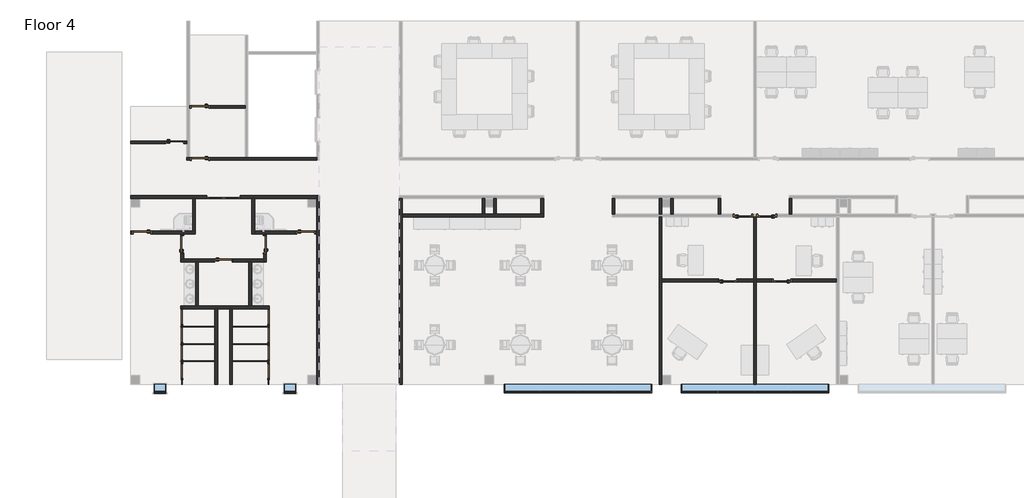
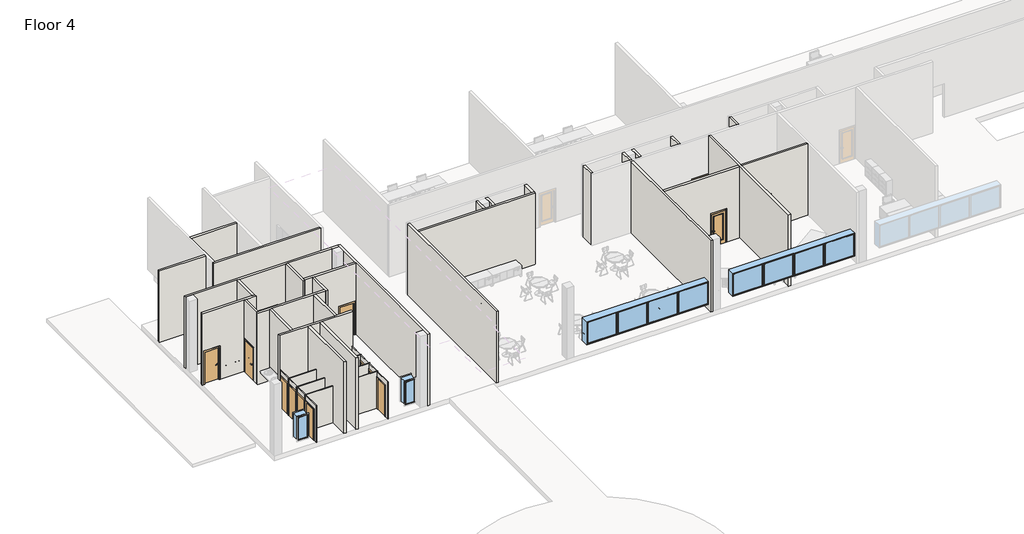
# One storey, part 1 of 6: 45 walls, 21 doors, 4 windows.
"""IFC4 building model written with IfcOpenShell, lengths in millimetres."""

from ifc_helpers import new_model, si_unit, frame, origin, place, context, project, spatial, polyline, outline, extrude, faceted_brep, transform, mapped, element, save
from components import door_f1125a27, door_36f17018, door_a46f4f49, door_4cfbdd5f, door_4a7c4c71, door_b03708da, door_cef5613e, window_casement_multi_sash_horizontal_25_x_5ft_0e5d08e3, window_69ce9bab

model = new_model("IFC4")

# Units and contexts
model_context = context("Model", 3, world=origin())
ifc_project = project(units=[si_unit("LENGTHUNIT", "METRE", prefix="MILLI")], contexts=[model_context])

# Site, building, storey
site = spatial("IfcSite", under=ifc_project)
building = spatial("IfcBuilding", under=site)
storey = spatial("IfcBuildingStorey", under=building, Name="Floor 4", Elevation=14935.2)

# Doors
placement = place(None, origin())
door_shape = door_f1125a27(model_context)
element("IfcDoor", 1, ObjectType="Dbl Acting Dbl Glass 1 : 68\" x 84\"", at=placement, inside=storey, context=model_context, shape_type="MappedRepresentation", body=[
    mapped(door_shape, transform((1836.7692024, 48316.361889, 14935.2), x_axis=(-1.0, 0.0, 0.0), y_axis=(0.0, -1.0, 0.0), z_axis=(0.0, 0.0, 1.0))),
])
door_2_shape = door_36f17018(model_context)
element("IfcDoor", 2, ObjectType="Door-Passage-Single-Flush : 36\" x 84\"", at=placement, inside=storey, context=model_context, shape_type="MappedRepresentation", body=[
    mapped(door_2_shape, transform((617.5692024, 50253.111889, 14935.2), x_axis=(-1.0, 0.0, 0.0), y_axis=(0.0, -1.0, 0.0), z_axis=(0.0, 0.0, 1.0))),
])
element("IfcDoor", 3, ObjectType="Door-Passage-Single-Flush : 36\" x 84\"", at=placement, inside=storey, context=model_context, shape_type="MappedRepresentation", body=[
    mapped(door_2_shape, transform((617.5692024, 52945.511889, 14935.2), x_axis=(-1.0, 0.0, 0.0), y_axis=(0.0, -1.0, 0.0), z_axis=(0.0, 0.0, 1.0))),
])
element("IfcDoor", 4, ObjectType="Door-Passage-Single-Flush : 36\" x 84\"", at=placement, inside=storey, context=model_context, shape_type="MappedRepresentation", body=[
    mapped(door_2_shape, transform((3964.0192024, 45858.911889, 14935.2), x_axis=(0.0, 1.0, 0.0), y_axis=(-1.0, 0.0, 0.0), z_axis=(0.0, 0.0, 1.0))),
])
element("IfcDoor", 5, ObjectType="Door-Passage-Single-Flush : 36\" x 84\"", at=placement, inside=storey, context=model_context, shape_type="MappedRepresentation", body=[
    mapped(door_2_shape, transform((-2380.0102165, 46455.811889, 14935.2), x_axis=(-1.0, 0.0, 0.0), y_axis=(0.0, -1.0, 0.0), z_axis=(0.0, 0.0, 1.0))),
])
door_3_shape = door_a46f4f49(model_context)
element("IfcDoor", 6, ObjectType="Door-Passage-Single-Flush : 36\" x 84\"", at=placement, inside=storey, context=model_context, shape_type="MappedRepresentation", body=[
    mapped(door_3_shape, transform((-684.1807976, 51116.711889, 14935.2), x_axis=(1.0, 0.0, 0.0), y_axis=(0.0, 1.0, 0.0), z_axis=(0.0, 0.0, 1.0))),
])
element("IfcDoor", 7, ObjectType="Door-Passage-Single-Flush : 36\" x 84\"", at=placement, inside=storey, context=model_context, shape_type="MappedRepresentation", body=[
    mapped(door_3_shape, transform((-290.4807976, 45852.561889, 14935.2), x_axis=(0.0, 1.0, 0.0), y_axis=(-1.0, 0.0, 0.0), z_axis=(0.0, 0.0, 1.0))),
])
element("IfcDoor", 8, ObjectType="Door-Passage-Single-Flush : 36\" x 84\"", at=placement, inside=storey, context=model_context, shape_type="MappedRepresentation", body=[
    mapped(door_3_shape, transform((6072.2192024, 46455.811889, 14935.2), x_axis=(1.0, 0.0, 0.0), y_axis=(0.0, 1.0, 0.0), z_axis=(0.0, 0.0, 1.0))),
])
element("IfcDoor", 9, ObjectType="Door-Passage-Single-Flush : 36\" x 84\"", at=placement, inside=storey, context=model_context, shape_type="MappedRepresentation", body=[
    mapped(door_3_shape, transform((1836.7692024, 45008.011889, 14935.2), x_axis=(1.0, 0.0, 0.0), y_axis=(0.0, 1.0, 0.0), z_axis=(0.0, 0.0, 1.0))),
])
door_4_shape = door_4cfbdd5f(model_context)
element("IfcDoor", 10, ObjectType="Door-Passage-Single-Full_Lite : 36\" x 84\"", at=placement, inside=storey, context=model_context, shape_type="MappedRepresentation", body=[
    mapped(door_4_shape, transform((27871.7692024, 43985.661889, 14935.2), x_axis=(1.0, 0.0, 0.0), y_axis=(0.0, 1.0, 0.0), z_axis=(0.0, 0.0, 1.0))),
])
element("IfcDoor", 11, ObjectType="Door-Passage-Single-Full_Lite : 36\" x 84\"", at=placement, inside=storey, context=model_context, shape_type="MappedRepresentation", body=[
    mapped(door_4_shape, transform((28659.1692024, 47338.461889, 14935.2), x_axis=(1.0, 0.0, 0.0), y_axis=(0.0, 1.0, 0.0), z_axis=(0.0, 0.0, 1.0))),
])
door_5_shape = door_4a7c4c71(model_context)
element("IfcDoor", 12, ObjectType="Door-Passage-Single-Full_Lite : 36\" x 84\"", at=placement, inside=storey, context=model_context, shape_type="MappedRepresentation", body=[
    mapped(door_5_shape, transform((30665.7692024, 43985.661889, 14935.2), x_axis=(-1.0, 0.0, 0.0), y_axis=(0.0, -1.0, 0.0), z_axis=(0.0, 0.0, 1.0))),
])
element("IfcDoor", 13, ObjectType="Door-Passage-Single-Full_Lite : 36\" x 84\"", at=placement, inside=storey, context=model_context, shape_type="MappedRepresentation", body=[
    mapped(door_5_shape, transform((29878.3692024, 47338.461889, 14935.2), x_axis=(-1.0, 0.0, 0.0), y_axis=(0.0, -1.0, 0.0), z_axis=(0.0, 0.0, 1.0))),
])
door_6_shape = door_b03708da(model_context)
element("IfcDoor", 14, ObjectType="Single-Flush : 30\" x 80\"", at=placement, inside=storey, context=model_context, shape_type="MappedRepresentation", body=[
    mapped(door_6_shape, transform((-322.2307976, 42096.536889, 14935.2), x_axis=(0.0, -1.0, 0.0), y_axis=(1.0, 0.0, 0.0), z_axis=(0.0, 0.0, 1.0))),
])
element("IfcDoor", 15, ObjectType="Single-Flush : 30\" x 80\"", at=placement, inside=storey, context=model_context, shape_type="MappedRepresentation", body=[
    mapped(door_6_shape, transform((-322.2307976, 41169.436889, 14935.2), x_axis=(0.0, -1.0, 0.0), y_axis=(1.0, 0.0, 0.0), z_axis=(0.0, 0.0, 1.0))),
])
element("IfcDoor", 16, ObjectType="Single-Flush : 30\" x 80\"", at=placement, inside=storey, context=model_context, shape_type="MappedRepresentation", body=[
    mapped(door_6_shape, transform((-322.2307976, 40255.036889, 14935.2), x_axis=(0.0, -1.0, 0.0), y_axis=(1.0, 0.0, 0.0), z_axis=(0.0, 0.0, 1.0))),
])
element("IfcDoor", 17, ObjectType="Single-Flush : 30\" x 80\"", at=placement, inside=storey, context=model_context, shape_type="MappedRepresentation", body=[
    mapped(door_6_shape, transform((-322.2307976, 39296.186889, 14935.2), x_axis=(0.0, -1.0, 0.0), y_axis=(1.0, 0.0, 0.0), z_axis=(0.0, 0.0, 1.0))),
])
door_7_shape = door_cef5613e(model_context)
element("IfcDoor", 18, ObjectType="Single-Flush : 30\" x 80\"", at=placement, inside=storey, context=model_context, shape_type="MappedRepresentation", body=[
    mapped(door_7_shape, transform((4148.1692024, 42096.536889, 14935.2), x_axis=(0.0, -1.0, 0.0), y_axis=(1.0, 0.0, 0.0), z_axis=(0.0, 0.0, 1.0))),
])
element("IfcDoor", 19, ObjectType="Single-Flush : 30\" x 80\"", at=placement, inside=storey, context=model_context, shape_type="MappedRepresentation", body=[
    mapped(door_7_shape, transform((4148.1692024, 41169.436889, 14935.2), x_axis=(0.0, -1.0, 0.0), y_axis=(1.0, 0.0, 0.0), z_axis=(0.0, 0.0, 1.0))),
])
element("IfcDoor", 20, ObjectType="Single-Flush : 30\" x 80\"", at=placement, inside=storey, context=model_context, shape_type="MappedRepresentation", body=[
    mapped(door_7_shape, transform((4148.1692024, 40255.036889, 14935.2), x_axis=(0.0, -1.0, 0.0), y_axis=(1.0, 0.0, 0.0), z_axis=(0.0, 0.0, 1.0))),
])
element("IfcDoor", 21, ObjectType="Single-Flush : 30\" x 80\"", at=placement, inside=storey, context=model_context, shape_type="MappedRepresentation", body=[
    mapped(door_7_shape, transform((4148.1692024, 39296.186889, 14935.2), x_axis=(0.0, -1.0, 0.0), y_axis=(1.0, 0.0, 0.0), z_axis=(0.0, 0.0, 1.0))),
])

# Walls
element("IfcWall", 22, ObjectType="Interior - 5 1/2\" Partition (1-hr)", at=placement, inside=storey, context=model_context, shape_type="Brep", body=[
    faceted_brep([(6777.0692024, 38618.324389, 14935.2), (6777.0692024, 48360.811889, 14935.2), (6777.0692024, 48360.811889, 19659.6), (6777.0692024, 38618.324389, 19659.6), (6637.3692024, 38618.324389, 14935.2), (6637.3692024, 38618.324389, 19659.6), (6637.3692024, 46392.311889, 19659.6), (6637.3692024, 46532.011889, 19659.6), (6637.3692024, 48221.111889, 19659.6), (6637.3692024, 48360.811889, 19659.6), (6637.3692024, 48360.811889, 14935.2), (6637.3692024, 48221.111889, 14935.2), (6637.3692024, 46532.011889, 14935.2), (6637.3692024, 46392.311889, 14935.2)], [[[0, 1, 2, 3]], [[4, 5, 6, 7, 8, 9, 10, 11, 12, 13]], [[1, 0, 4, 13, 12, 11, 10]], [[3, 2, 9, 8, 7, 6, 5]], [[2, 1, 10, 9]], [[0, 3, 5, 4]]]),
])
element("IfcWall", 23, ObjectType="Interior - 5 1/2\" Partition (1-hr)", at=placement, inside=storey, context=model_context, shape_type="Brep", body=[
    faceted_brep([(973.1692024, 48360.811889, 17068.8), (973.1692024, 48360.811889, 14935.2), (-2965.7977165, 48360.811889, 14935.2), (-2965.7977165, 48360.811889, 19659.6), (6637.3692024, 48360.811889, 19659.6), (6637.3692024, 48360.811889, 14935.2), (2700.3692024, 48360.811889, 14935.2), (2700.3692024, 48360.811889, 17068.8), (-2965.7977165, 48221.111889, 14935.2), (242.9192024, 48221.111889, 14935.2), (382.6192024, 48221.111889, 14935.2), (973.1692024, 48221.111889, 14935.2), (973.1692024, 48221.111889, 17068.8), (2700.3692024, 48221.111889, 17068.8), (2700.3692024, 48221.111889, 14935.2), (3290.9192024, 48221.111889, 14935.2), (3430.6192024, 48221.111889, 14935.2), (6637.3692024, 48221.111889, 14935.2), (6637.3692024, 48221.111889, 19659.6), (3430.6192024, 48221.111889, 19659.6), (3290.9192024, 48221.111889, 19659.6), (382.6192024, 48221.111889, 19659.6), (242.9192024, 48221.111889, 19659.6), (-2965.7977165, 48221.111889, 19659.6)], [[[0, 1, 2, 3, 4, 5, 6, 7]], [[8, 9, 10, 11, 12, 13, 14, 15, 16, 17, 18, 19, 20, 21, 22, 23]], [[2, 1, 11, 10, 9, 8]], [[6, 5, 17, 16, 15, 14]], [[4, 3, 23, 22, 21, 20, 19, 18]], [[5, 4, 18, 17]], [[3, 2, 8, 23]], [[12, 11, 1, 0]], [[13, 12, 0, 7]], [[14, 13, 7, 6]]]),
])
element("IfcWall", 24, ObjectType="Interior - 5 1/2\" Partition (1-hr)", at=placement, inside=storey, context=model_context, shape_type="Brep", body=[
    faceted_brep([(6637.3692024, 50329.311889, 19659.6), (3094.0692024, 50329.311889, 19659.6), (2954.3692024, 50329.311889, 19659.6), (77.8192024, 50329.311889, 19659.6), (-61.8807976, 50329.311889, 19659.6), (-61.8807976, 50189.611889, 19659.6), (6637.3692024, 50189.611889, 19659.6), (109.5692024, 50329.311889, 17170.4), (109.5692024, 50329.311889, 14935.2), (77.8192024, 50329.311889, 14935.2), (-61.8807976, 50329.311889, 14935.2), (6637.3692024, 50329.311889, 14935.2), (3094.0692024, 50329.311889, 14935.2), (2954.3692024, 50329.311889, 14935.2), (1125.5692024, 50329.311889, 14935.2), (1125.5692024, 50329.311889, 17170.4), (-61.8807976, 50189.611889, 14935.2), (109.5692024, 50189.611889, 14935.2), (109.5692024, 50189.611889, 17170.4), (1125.5692024, 50189.611889, 17170.4), (1125.5692024, 50189.611889, 14935.2), (6637.3692024, 50189.611889, 14935.2)], [[[0, 1, 2, 3, 4, 5, 6]], [[7, 8, 9, 10, 4, 3, 2, 1, 0, 11, 12, 13, 14, 15]], [[16, 17, 18, 19, 20, 21, 6, 5]], [[10, 9, 8, 17, 16]], [[14, 13, 12, 11, 21, 20]], [[11, 0, 6, 21]], [[4, 10, 16, 5]], [[18, 17, 8, 7]], [[19, 18, 7, 15]], [[20, 19, 15, 14]]]),
])
element("IfcWall", 25, ObjectType="Interior - 5 1/2\" Partition (1-hr)", at=placement, inside=storey, context=model_context, shape_type="SweptSolid", body=[
    extrude(outline(polyline([(17170.4, -176.1807976), (14935.2, -176.1807976), (14935.2, -61.8807976), (19659.6, -61.8807976), (19659.6, -2965.7977165), (14935.2, -2965.7977165), (14935.2, -1192.1807976), (17170.4, -1192.1807976), (17170.4, -176.1807976)])), frame((0.0, 51053.211889, 0.0), z_axis=(0.0, 1.0, 0.0), x_axis=(0.0, 0.0, 1.0)), (0.0, 0.0, 1.0), 139.7),
])
element("IfcWall", 26, ObjectType="Interior - 5 1/2\" Partition (1-hr)", at=placement, inside=storey, context=model_context, shape_type="SweptSolid", body=[
    extrude(outline(polyline([(14935.2, 77.8192024), (14935.2, 109.5692024), (17170.4, 109.5692024), (17170.4, 1125.5692024), (14935.2, 1125.5692024), (14935.2, 2954.3692024), (19659.6, 2954.3692024), (19659.6, 77.8192024), (14935.2, 77.8192024)])), frame((0.0, 52882.011889, 0.0), z_axis=(0.0, 1.0, 0.0), x_axis=(0.0, 0.0, 1.0)), (0.0, 0.0, 1.0), 139.7),
])
element("IfcWall", 27, ObjectType="Interior - 5 1/2\" Partition (1-hr)", at=placement, inside=storey, context=model_context, shape_type="Brep", body=[
    faceted_brep([(3290.9192024, 48221.111889, 14935.2), (3290.9192024, 46392.311889, 14935.2), (3290.9192024, 46392.311889, 19659.6), (3290.9192024, 48221.111889, 19659.6), (3430.6192024, 48221.111889, 14935.2), (3430.6192024, 48221.111889, 19659.6), (3430.6192024, 46532.011889, 19659.6), (3430.6192024, 46392.311889, 19659.6), (3430.6192024, 46392.311889, 14935.2), (3430.6192024, 46532.011889, 14935.2)], [[[0, 1, 2, 3]], [[4, 5, 6, 7, 8, 9]], [[1, 0, 4, 9, 8]], [[3, 2, 7, 6, 5]], [[2, 1, 8, 7]], [[0, 3, 5, 4]]]),
])
element("IfcWall", 28, ObjectType="Interior - 5 1/2\" Partition (1-hr)", at=placement, inside=storey, context=model_context, shape_type="Brep", body=[
    faceted_brep([(3430.6192024, 46392.311889, 19659.6), (3900.5192024, 46392.311889, 19659.6), (4040.2192024, 46392.311889, 19659.6), (6637.3692024, 46392.311889, 19659.6), (6637.3692024, 46532.011889, 19659.6), (3430.6192024, 46532.011889, 19659.6), (6580.2192024, 46392.311889, 17170.4), (6580.2192024, 46392.311889, 14935.2), (6637.3692024, 46392.311889, 14935.2), (3430.6192024, 46392.311889, 14935.2), (3900.5192024, 46392.311889, 14935.2), (4040.2192024, 46392.311889, 14935.2), (5564.2192024, 46392.311889, 14935.2), (5564.2192024, 46392.311889, 17170.4), (6637.3692024, 46532.011889, 14935.2), (6580.2192024, 46532.011889, 14935.2), (6580.2192024, 46532.011889, 17170.4), (5564.2192024, 46532.011889, 17170.4), (5564.2192024, 46532.011889, 14935.2), (3430.6192024, 46532.011889, 14935.2)], [[[0, 1, 2, 3, 4, 5]], [[6, 7, 8, 3, 2, 1, 0, 9, 10, 11, 12, 13]], [[14, 15, 16, 17, 18, 19, 5, 4]], [[8, 7, 15, 14]], [[12, 11, 10, 9, 19, 18]], [[9, 0, 5, 19]], [[3, 8, 14, 4]], [[16, 15, 7, 6]], [[17, 16, 6, 13]], [[18, 17, 13, 12]]]),
])
element("IfcWall", 29, ObjectType="Interior - 5 1/2\" Partition (1-hr)", at=placement, inside=storey, context=model_context, shape_type="Brep", body=[
    faceted_brep([(-2965.7977165, 46392.311889, 19659.6), (-366.6807976, 46392.311889, 19659.6), (-226.9807976, 46392.311889, 19659.6), (382.6192024, 46392.311889, 19659.6), (382.6192024, 46532.011889, 19659.6), (242.9192024, 46532.011889, 19659.6), (-2965.7977165, 46532.011889, 19659.6), (-2965.7977165, 46392.311889, 14935.2), (-2888.0102165, 46392.311889, 14935.2), (-2888.0102165, 46392.311889, 17170.4), (-1872.0102165, 46392.311889, 17170.4), (-1872.0102165, 46392.311889, 14935.2), (-366.6807976, 46392.311889, 14935.2), (-226.9807976, 46392.311889, 14935.2), (382.6192024, 46392.311889, 14935.2), (-2888.0102165, 46532.011889, 17170.4), (-2888.0102165, 46532.011889, 14935.2), (-2965.7977165, 46532.011889, 14935.2), (382.6192024, 46532.011889, 14935.2), (242.9192024, 46532.011889, 14935.2), (-1872.0102165, 46532.011889, 14935.2), (-1872.0102165, 46532.011889, 17170.4)], [[[0, 1, 2, 3, 4, 5, 6]], [[7, 8, 9, 10, 11, 12, 13, 14, 3, 2, 1, 0]], [[15, 16, 17, 6, 5, 4, 18, 19, 20, 21]], [[17, 16, 8, 7]], [[20, 19, 18, 14, 13, 12, 11]], [[3, 14, 18, 4]], [[7, 0, 6, 17]], [[9, 8, 16, 15]], [[10, 9, 15, 21]], [[11, 10, 21, 20]]]),
])
element("IfcWall", 30, ObjectType="Interior - 5 1/2\" Partition (1-hr)", at=placement, inside=storey, context=model_context, shape_type="SweptSolid", body=[
    extrude(outline(polyline([(382.6192024, 48221.111889), (382.6192024, 46532.011889), (242.9192024, 46532.011889), (242.9192024, 48221.111889), (382.6192024, 48221.111889)])), frame((0.0, 0.0, 14935.2), z_axis=(0.0, 0.0, 1.0), x_axis=(1.0, 0.0, 0.0)), (0.0, 0.0, 1.0), 4724.4),
])
element("IfcWall", 31, ObjectType="Interior - 5 1/2\" Partition (1-hr)", at=placement, inside=storey, context=model_context, shape_type="Brep", body=[
    faceted_brep([(3900.5192024, 46392.311889, 19659.6), (3900.5192024, 45084.211889, 19659.6), (3900.5192024, 44944.511889, 19659.6), (4040.2192024, 44944.511889, 19659.6), (4040.2192024, 46392.311889, 19659.6), (3900.5192024, 46392.311889, 14935.2), (3900.5192024, 46366.911889, 14935.2), (3900.5192024, 46366.911889, 17170.4), (3900.5192024, 45350.911889, 17170.4), (3900.5192024, 45350.911889, 14935.2), (3900.5192024, 45084.211889, 14935.2), (3900.5192024, 44944.511889, 14935.2), (4040.2192024, 46366.911889, 17170.4), (4040.2192024, 46366.911889, 14935.2), (4040.2192024, 46392.311889, 14935.2), (4040.2192024, 44944.511889, 14935.2), (4040.2192024, 45350.911889, 14935.2), (4040.2192024, 45350.911889, 17170.4)], [[[0, 1, 2, 3, 4]], [[5, 6, 7, 8, 9, 10, 11, 2, 1, 0]], [[12, 13, 14, 4, 3, 15, 16, 17]], [[14, 13, 6, 5]], [[16, 15, 11, 10, 9]], [[5, 0, 4, 14]], [[2, 11, 15, 3]], [[7, 6, 13, 12]], [[8, 7, 12, 17]], [[9, 8, 17, 16]]]),
])
element("IfcWall", 32, ObjectType="Interior - 5 1/2\" Partition (1-hr)", at=placement, inside=storey, context=model_context, shape_type="Brep", body=[
    faceted_brep([(3900.5192024, 45084.211889, 19659.6), (-226.9807976, 45084.211889, 19659.6), (-366.6807976, 45084.211889, 19659.6), (-366.6807976, 44944.511889, 19659.6), (395.3192024, 44944.511889, 19659.6), (535.0192024, 44944.511889, 19659.6), (3138.5192024, 44944.511889, 19659.6), (3278.2192024, 44944.511889, 19659.6), (3900.5192024, 44944.511889, 19659.6), (3900.5192024, 45084.211889, 14935.2), (2344.7692024, 45084.211889, 14935.2), (2344.7692024, 45084.211889, 17170.4), (1328.7692024, 45084.211889, 17170.4), (1328.7692024, 45084.211889, 14935.2), (-226.9807976, 45084.211889, 14935.2), (-366.6807976, 45084.211889, 14935.2), (2344.7692024, 44944.511889, 17170.4), (2344.7692024, 44944.511889, 14935.2), (3138.5192024, 44944.511889, 14935.2), (3278.2192024, 44944.511889, 14935.2), (3900.5192024, 44944.511889, 14935.2), (-366.6807976, 44944.511889, 14935.2), (395.3192024, 44944.511889, 14935.2), (535.0192024, 44944.511889, 14935.2), (1328.7692024, 44944.511889, 14935.2), (1328.7692024, 44944.511889, 17170.4)], [[[0, 1, 2, 3, 4, 5, 6, 7, 8]], [[9, 10, 11, 12, 13, 14, 15, 2, 1, 0]], [[16, 17, 18, 19, 20, 8, 7, 6, 5, 4, 3, 21, 22, 23, 24, 25]], [[20, 19, 18, 17, 10, 9]], [[24, 23, 22, 21, 15, 14, 13]], [[9, 0, 8, 20]], [[2, 15, 21, 3]], [[11, 10, 17, 16]], [[12, 11, 16, 25]], [[13, 12, 25, 24]]]),
])
element("IfcWall", 33, ObjectType="Interior - 5 1/2\" Partition (1-hr)", at=placement, inside=storey, context=model_context, shape_type="SweptSolid", body=[
    extrude(outline(polyline([(46392.311889, 14935.2), (46360.561889, 14935.2), (46360.561889, 17170.4), (45344.561889, 17170.4), (45344.561889, 14935.2), (45084.211889, 14935.2), (45084.211889, 19659.6), (46392.311889, 19659.6), (46392.311889, 14935.2)])), frame((-366.6807976, 0.0, 0.0), z_axis=(1.0, 0.0, 0.0), x_axis=(0.0, 1.0, 0.0)), (0.0, 0.0, 1.0), 139.7),
])
element("IfcWall", 34, ObjectType="Interior - 5 1/2\" Partition (1-hr)", at=placement, inside=storey, context=model_context, shape_type="Brep", body=[
    faceted_brep([(10910.9192024, 48221.111889, 14935.2), (10910.9192024, 38618.324389, 14935.2), (10910.9192024, 38618.324389, 19659.6), (10910.9192024, 48221.111889, 19659.6), (11050.6192024, 48221.111889, 14935.2), (11050.6192024, 48221.111889, 19659.6), (11050.6192024, 47401.961889, 19659.6), (11050.6192024, 47262.261889, 19659.6), (11050.6192024, 38618.324389, 19659.6), (11050.6192024, 38618.324389, 14935.2), (11050.6192024, 47262.261889, 14935.2), (11050.6192024, 47401.961889, 14935.2)], [[[0, 1, 2, 3]], [[4, 5, 6, 7, 8, 9, 10, 11]], [[1, 0, 4, 11, 10, 9]], [[3, 2, 8, 7, 6, 5]], [[0, 3, 5, 4]], [[2, 1, 9, 8]]]),
])
element("IfcWall", 35, ObjectType="Interior - 5 1/2\" Partition (1-hr)", at=placement, inside=storey, context=model_context, shape_type="Brep", body=[
    faceted_brep([(15324.1692024, 47401.961889, 14935.2), (15324.1692024, 47763.911889, 14935.2), (15324.1692024, 48221.111889, 14935.2), (15324.1692024, 48221.111889, 19659.6), (15324.1692024, 47763.911889, 19659.6), (15324.1692024, 47401.961889, 19659.6), (15184.4692024, 47401.961889, 14935.2), (15184.4692024, 47401.961889, 19659.6), (15184.4692024, 48221.111889, 19659.6), (15184.4692024, 48221.111889, 14935.2)], [[[0, 1, 2, 3, 4, 5]], [[6, 7, 8, 9]], [[2, 1, 0, 6, 9]], [[5, 4, 3, 8, 7]], [[3, 2, 9, 8]], [[0, 5, 7, 6]]]),
])
element("IfcWall", 36, ObjectType="Interior - 5 1/2\" Partition (1-hr)", at=placement, inside=storey, context=model_context, shape_type="Brep", body=[
    faceted_brep([(15921.0692024, 47401.961889, 14935.2), (15921.0692024, 48221.111889, 14935.2), (15921.0692024, 48221.111889, 19659.6), (15921.0692024, 47401.961889, 19659.6), (15781.3692024, 47401.961889, 14935.2), (15781.3692024, 47401.961889, 19659.6), (15781.3692024, 47763.911889, 19659.6), (15781.3692024, 48221.111889, 19659.6), (15781.3692024, 48221.111889, 14935.2), (15781.3692024, 47763.911889, 14935.2)], [[[0, 1, 2, 3]], [[4, 5, 6, 7, 8, 9]], [[1, 0, 4, 9, 8]], [[3, 2, 7, 6, 5]], [[2, 1, 8, 7]], [[0, 3, 5, 4]]]),
])
element("IfcWall", 37, ObjectType="Interior - 5 1/2\" Partition (1-hr)", at=placement, inside=storey, context=model_context, shape_type="Brep", body=[
    faceted_brep([(24468.1692024, 47401.961889, 14935.2), (24468.1692024, 47763.911889, 14935.2), (24468.1692024, 48221.111889, 14935.2), (24468.1692024, 48221.111889, 19659.6), (24468.1692024, 47763.911889, 19659.6), (24468.1692024, 47401.961889, 19659.6), (24328.4692024, 47401.961889, 14935.2), (24328.4692024, 47401.961889, 19659.6), (24328.4692024, 48221.111889, 19659.6), (24328.4692024, 48221.111889, 14935.2)], [[[0, 1, 2, 3, 4, 5]], [[6, 7, 8, 9]], [[2, 1, 0, 6, 9]], [[5, 4, 3, 8, 7]], [[0, 5, 7, 6]], [[3, 2, 9, 8]]]),
])
element("IfcWall", 38, ObjectType="Interior - 5 1/2\" Partition (1-hr)", at=placement, inside=storey, context=model_context, shape_type="Brep", body=[
    faceted_brep([(25065.0692024, 47401.961889, 14935.2), (25065.0692024, 48221.111889, 14935.2), (25065.0692024, 48221.111889, 19659.6), (25065.0692024, 47401.961889, 19659.6), (24925.3692024, 47401.961889, 14935.2), (24925.3692024, 47401.961889, 19659.6), (24925.3692024, 47763.911889, 19659.6), (24925.3692024, 48221.111889, 19659.6), (24925.3692024, 48221.111889, 14935.2), (24925.3692024, 47763.911889, 14935.2)], [[[0, 1, 2, 3]], [[4, 5, 6, 7, 8, 9]], [[1, 0, 4, 9, 8]], [[3, 2, 7, 6, 5]], [[0, 3, 5, 4]], [[2, 1, 8, 7]]]),
])
element("IfcWall", 39, ObjectType="Interior - 5 1/2\" Partition (1-hr)", at=placement, inside=storey, context=model_context, shape_type="SweptSolid", body=[
    extrude(outline(polyline([(18359.4692024, 48221.111889), (18359.4692024, 47401.961889), (18219.7692024, 47401.961889), (18219.7692024, 48221.111889), (18359.4692024, 48221.111889)])), frame((0.0, 0.0, 14935.2), z_axis=(0.0, 0.0, 1.0), x_axis=(1.0, 0.0, 0.0)), (0.0, 0.0, 1.0), 4724.4),
])
element("IfcWall", 40, ObjectType="Interior - 5 1/2\" Partition (1-hr)", at=placement, inside=storey, context=model_context, shape_type="SweptSolid", body=[
    extrude(outline(polyline([(22029.7692024, 48221.111889), (22029.7692024, 47401.961889), (21890.0692024, 47401.961889), (21890.0692024, 48221.111889), (22029.7692024, 48221.111889)])), frame((0.0, 0.0, 14935.2), z_axis=(0.0, 0.0, 1.0), x_axis=(1.0, 0.0, 0.0)), (0.0, 0.0, 1.0), 4724.4),
])
element("IfcWall", 41, ObjectType="Interior - 5 1/2\" Partition (1-hr)", at=placement, inside=storey, context=model_context, shape_type="SweptSolid", body=[
    extrude(outline(polyline([(27503.4692024, 48221.111889), (27503.4692024, 47401.961889), (27363.7692024, 47401.961889), (27363.7692024, 48221.111889), (27503.4692024, 48221.111889)])), frame((0.0, 0.0, 14935.2), z_axis=(0.0, 0.0, 1.0), x_axis=(1.0, 0.0, 0.0)), (0.0, 0.0, 1.0), 4724.4),
])
element("IfcWall", 42, ObjectType="Interior - 5 1/2\" Partition (1-hr)", at=placement, inside=storey, context=model_context, shape_type="SweptSolid", body=[
    extrude(outline(polyline([(31173.7692024, 48221.111889), (31173.7692024, 47401.961889), (31034.0692024, 47401.961889), (31034.0692024, 48221.111889), (31173.7692024, 48221.111889)])), frame((0.0, 0.0, 14935.2), z_axis=(0.0, 0.0, 1.0), x_axis=(1.0, 0.0, 0.0)), (0.0, 0.0, 1.0), 4724.4),
])
element("IfcWall", 43, ObjectType="Interior - 5 1/2\" Partition (1-hr)", at=placement, inside=storey, context=model_context, shape_type="Brep", body=[
    faceted_brep([(24328.4692024, 47262.261889, 14935.2), (24328.4692024, 38618.324389, 14935.2), (24328.4692024, 38618.324389, 19659.6), (24328.4692024, 47262.261889, 19659.6), (24468.1692024, 47262.261889, 14935.2), (24468.1692024, 47262.261889, 19659.6), (24468.1692024, 44049.161889, 19659.6), (24468.1692024, 43909.461889, 19659.6), (24468.1692024, 39077.111889, 19659.6), (24468.1692024, 38619.911889, 19659.6), (24468.1692024, 38618.324389, 19659.6), (24468.1692024, 38618.324389, 14935.2), (24468.1692024, 38619.911889, 14935.2), (24468.1692024, 39077.111889, 14935.2), (24468.1692024, 43909.461889, 14935.2), (24468.1692024, 44049.161889, 14935.2)], [[[0, 1, 2, 3]], [[4, 5, 6, 7, 8, 9, 10, 11, 12, 13, 14, 15]], [[1, 0, 4, 15, 14, 13, 12, 11]], [[3, 2, 10, 9, 8, 7, 6, 5]], [[0, 3, 5, 4]], [[2, 1, 11, 10]]]),
])
element("IfcWall", 44, ObjectType="Interior - 5 1/2\" Partition (1-hr)", at=placement, inside=storey, context=model_context, shape_type="Brep", body=[
    faceted_brep([(29198.9192024, 47262.261889, 14935.2), (29198.9192024, 44049.161889, 14935.2), (29198.9192024, 43909.461889, 14935.2), (29198.9192024, 38618.324389, 14935.2), (29198.9192024, 38618.324389, 19659.6), (29198.9192024, 43909.461889, 19659.6), (29198.9192024, 44049.161889, 19659.6), (29198.9192024, 47262.261889, 19659.6), (29338.6192024, 47262.261889, 14935.2), (29338.6192024, 47262.261889, 19659.6), (29338.6192024, 44049.161889, 19659.6), (29338.6192024, 43909.461889, 19659.6), (29338.6192024, 38618.324389, 19659.6), (29338.6192024, 38618.324389, 14935.2), (29338.6192024, 43909.461889, 14935.2), (29338.6192024, 44049.161889, 14935.2)], [[[0, 1, 2, 3, 4, 5, 6, 7]], [[8, 9, 10, 11, 12, 13, 14, 15]], [[3, 2, 1, 0, 8, 15, 14, 13]], [[7, 6, 5, 4, 12, 11, 10, 9]], [[0, 7, 9, 8]], [[4, 3, 13, 12]]]),
])
element("IfcWall", 45, ObjectType="Interior - 5 1/2\" Partition (1-hr)", at=placement, inside=storey, context=model_context, shape_type="SweptSolid", body=[
    extrude(outline(polyline([(17170.4, 28379.7692024), (14935.2, 28379.7692024), (14935.2, 29198.9192024), (19659.6, 29198.9192024), (19659.6, 24468.1692024), (14935.2, 24468.1692024), (14935.2, 27363.7692024), (17170.4, 27363.7692024), (17170.4, 28379.7692024)])), frame((0.0, 43909.461889, 0.0), z_axis=(0.0, 1.0, 0.0), x_axis=(0.0, 0.0, 1.0)), (0.0, 0.0, 1.0), 139.7),
])
element("IfcWall", 46, ObjectType="Interior - 5 1/2\" Partition (1-hr)", at=placement, inside=storey, context=model_context, shape_type="SweptSolid", body=[
    extrude(outline(polyline([(14935.2, 29338.6192024), (14935.2, 30157.7692024), (17170.4, 30157.7692024), (17170.4, 31173.7692024), (14935.2, 31173.7692024), (14935.2, 33472.4692024), (19659.6, 33472.4692024), (19659.6, 29338.6192024), (14935.2, 29338.6192024)])), frame((0.0, 43909.461889, 0.0), z_axis=(0.0, 1.0, 0.0), x_axis=(0.0, 0.0, 1.0)), (0.0, 0.0, 1.0), 139.7),
])
element("IfcWall", 47, ObjectType="Interior - 5 1/2\" Partition (1-hr)", at=placement, inside=storey, context=model_context, shape_type="Brep", body=[
    faceted_brep([(18359.4692024, 47401.961889, 14935.2), (18219.7692024, 47401.961889, 14935.2), (15921.0692024, 47401.961889, 14935.2), (15781.3692024, 47401.961889, 14935.2), (15324.1692024, 47401.961889, 14935.2), (15184.4692024, 47401.961889, 14935.2), (11050.6192024, 47401.961889, 14935.2), (11050.6192024, 47401.961889, 19659.6), (15184.4692024, 47401.961889, 19659.6), (15324.1692024, 47401.961889, 19659.6), (15781.3692024, 47401.961889, 19659.6), (15921.0692024, 47401.961889, 19659.6), (18219.7692024, 47401.961889, 19659.6), (18359.4692024, 47401.961889, 19659.6), (18359.4692024, 47262.261889, 14935.2), (18359.4692024, 47262.261889, 19659.6), (11050.6192024, 47262.261889, 19659.6), (11050.6192024, 47262.261889, 14935.2)], [[[0, 1, 2, 3, 4, 5, 6, 7, 8, 9, 10, 11, 12, 13]], [[14, 15, 16, 17]], [[6, 5, 4, 3, 2, 1, 0, 14, 17]], [[13, 12, 11, 10, 9, 8, 7, 16, 15]], [[0, 13, 15, 14]], [[7, 6, 17, 16]]]),
])
element("IfcWall", 48, ObjectType="Interior - 5 1/2\" Partition (1-hr)", at=placement, inside=storey, context=model_context, shape_type="Brep", body=[
    faceted_brep([(2147.9192024, 42518.811889, 14935.2), (2147.9192024, 38618.324389, 14935.2), (2147.9192024, 38618.324389, 19659.6), (2147.9192024, 42518.811889, 19659.6), (2287.6192024, 42518.811889, 14935.2), (2287.6192024, 42518.811889, 19659.6), (2287.6192024, 38618.324389, 19659.6), (2287.6192024, 38618.324389, 14935.2), (2287.6192024, 39788.311889, 14935.2), (2287.6192024, 39813.711889, 14935.2), (2287.6192024, 40677.311889, 14935.2), (2287.6192024, 40702.711889, 14935.2), (2287.6192024, 41591.711889, 14935.2), (2287.6192024, 41617.111889, 14935.2)], [[[0, 1, 2, 3]], [[4, 5, 6, 7, 8, 9, 10, 11, 12, 13]], [[1, 0, 4, 13, 12, 11, 10, 9, 8, 7]], [[3, 2, 6, 5]], [[0, 3, 5, 4]], [[2, 1, 7, 6]]]),
])
element("IfcWall", 49, ObjectType="Interior - 5 1/2\" Partition (1-hr)", at=placement, inside=storey, context=model_context, shape_type="Brep", body=[
    faceted_brep([(-373.0307976, 42518.811889, 14935.2), (-334.9307976, 42518.811889, 14935.2), (-309.5307976, 42518.811889, 14935.2), (1385.9192024, 42518.811889, 14935.2), (1525.6192024, 42518.811889, 14935.2), (2147.9192024, 42518.811889, 14935.2), (2287.6192024, 42518.811889, 14935.2), (4135.4692024, 42518.811889, 14935.2), (4160.8692024, 42518.811889, 14935.2), (4198.9692024, 42518.811889, 14935.2), (4198.9692024, 42518.811889, 19659.6), (2287.6192024, 42518.811889, 19659.6), (2147.9192024, 42518.811889, 19659.6), (1525.6192024, 42518.811889, 19659.6), (1385.9192024, 42518.811889, 19659.6), (-373.0307976, 42518.811889, 19659.6), (-373.0307976, 42658.511889, 14935.2), (-373.0307976, 42658.511889, 19659.6), (395.3192024, 42658.511889, 19659.6), (535.0192024, 42658.511889, 19659.6), (3138.5192024, 42658.511889, 19659.6), (3278.2192024, 42658.511889, 19659.6), (4198.9692024, 42658.511889, 19659.6), (4198.9692024, 42658.511889, 14935.2), (3278.2192024, 42658.511889, 14935.2), (3138.5192024, 42658.511889, 14935.2), (535.0192024, 42658.511889, 14935.2), (395.3192024, 42658.511889, 14935.2)], [[[0, 1, 2, 3, 4, 5, 6, 7, 8, 9, 10, 11, 12, 13, 14, 15]], [[16, 17, 18, 19, 20, 21, 22, 23, 24, 25, 26, 27]], [[9, 8, 7, 6, 5, 4, 3, 2, 1, 0, 16, 27, 26, 25, 24, 23]], [[10, 9, 23, 22]], [[15, 14, 13, 12, 11, 10, 22, 21, 20, 19, 18, 17]], [[0, 15, 17, 16]]]),
])
element("IfcWall", 50, ObjectType="Interior - 5 1/2\" Partition (1-hr)", at=placement, inside=storey, context=model_context, shape_type="SweptSolid", body=[
    extrude(outline(polyline([(3278.2192024, 44944.511889), (3278.2192024, 42658.511889), (3138.5192024, 42658.511889), (3138.5192024, 44944.511889), (3278.2192024, 44944.511889)])), frame((0.0, 0.0, 14935.2), z_axis=(0.0, 0.0, 1.0), x_axis=(1.0, 0.0, 0.0)), (0.0, 0.0, 1.0), 4724.4),
])
element("IfcWall", 51, ObjectType="Interior - 5 1/2\" Partition (1-hr)", at=placement, inside=storey, context=model_context, shape_type="Brep", body=[
    faceted_brep([(1385.9192024, 42518.811889, 14935.2), (1385.9192024, 41617.111889, 14935.2), (1385.9192024, 41591.711889, 14935.2), (1385.9192024, 40702.711889, 14935.2), (1385.9192024, 40677.311889, 14935.2), (1385.9192024, 39813.711889, 14935.2), (1385.9192024, 39788.311889, 14935.2), (1385.9192024, 38618.324389, 14935.2), (1385.9192024, 38618.324389, 19659.6), (1385.9192024, 42518.811889, 19659.6), (1525.6192024, 42518.811889, 14935.2), (1525.6192024, 42518.811889, 19659.6), (1525.6192024, 38618.324389, 19659.6), (1525.6192024, 38618.324389, 14935.2)], [[[0, 1, 2, 3, 4, 5, 6, 7, 8, 9]], [[10, 11, 12, 13]], [[7, 6, 5, 4, 3, 2, 1, 0, 10, 13]], [[9, 8, 12, 11]], [[0, 9, 11, 10]], [[8, 7, 13, 12]]]),
])
element("IfcWall", 52, ObjectType="Interior - 5 1/2\" Partition (1-hr)", at=placement, inside=storey, context=model_context, shape_type="SweptSolid", body=[
    extrude(outline(polyline([(395.3192024, 42658.511889), (395.3192024, 44944.511889), (535.0192024, 44944.511889), (535.0192024, 42658.511889), (395.3192024, 42658.511889)])), frame((0.0, 0.0, 14935.2), z_axis=(0.0, 0.0, 1.0), x_axis=(1.0, 0.0, 0.0)), (0.0, 0.0, 1.0), 4724.4),
])
element("IfcWall", 53, ObjectType="toilet partition - 1\"", at=placement, inside=storey, context=model_context, shape_type="Brep", body=[
    faceted_brep([(2287.6192024, 39788.311889, 14935.2), (4135.4692024, 39788.311889, 14935.2), (4160.8692024, 39788.311889, 14935.2), (4198.9692024, 39788.311889, 14935.2), (4198.9692024, 39788.311889, 17373.6), (4160.8692024, 39788.311889, 17373.6), (4135.4692024, 39788.311889, 17373.6), (2287.6192024, 39788.311889, 17373.6), (2287.6192024, 39813.711889, 14935.2), (2287.6192024, 39813.711889, 17373.6), (4135.4692024, 39813.711889, 17373.6), (4160.8692024, 39813.711889, 17373.6), (4198.9692024, 39813.711889, 17373.6), (4198.9692024, 39813.711889, 14935.2), (4160.8692024, 39813.711889, 14935.2), (4135.4692024, 39813.711889, 14935.2)], [[[0, 1, 2, 3, 4, 5, 6, 7]], [[8, 9, 10, 11, 12, 13, 14, 15]], [[3, 2, 1, 0, 8, 15, 14, 13]], [[4, 3, 13, 12]], [[7, 6, 5, 4, 12, 11, 10, 9]], [[0, 7, 9, 8]]]),
])
element("IfcWall", 54, ObjectType="toilet partition - 1\"", at=placement, inside=storey, context=model_context, shape_type="Brep", body=[
    faceted_brep([(2287.6192024, 40677.311889, 14935.2), (4135.4692024, 40677.311889, 14935.2), (4160.8692024, 40677.311889, 14935.2), (4198.9692024, 40677.311889, 14935.2), (4198.9692024, 40677.311889, 17373.6), (4160.8692024, 40677.311889, 17373.6), (4135.4692024, 40677.311889, 17373.6), (2287.6192024, 40677.311889, 17373.6), (2287.6192024, 40702.711889, 14935.2), (2287.6192024, 40702.711889, 17373.6), (4135.4692024, 40702.711889, 17373.6), (4160.8692024, 40702.711889, 17373.6), (4198.9692024, 40702.711889, 17373.6), (4198.9692024, 40702.711889, 14935.2), (4160.8692024, 40702.711889, 14935.2), (4135.4692024, 40702.711889, 14935.2)], [[[0, 1, 2, 3, 4, 5, 6, 7]], [[8, 9, 10, 11, 12, 13, 14, 15]], [[3, 2, 1, 0, 8, 15, 14, 13]], [[4, 3, 13, 12]], [[7, 6, 5, 4, 12, 11, 10, 9]], [[0, 7, 9, 8]]]),
])
element("IfcWall", 55, ObjectType="toilet partition - 1\"", at=placement, inside=storey, context=model_context, shape_type="Brep", body=[
    faceted_brep([(2287.6192024, 41591.711889, 14935.2), (4135.4692024, 41591.711889, 14935.2), (4160.8692024, 41591.711889, 14935.2), (4198.9692024, 41591.711889, 14935.2), (4198.9692024, 41591.711889, 17373.6), (4160.8692024, 41591.711889, 17373.6), (4135.4692024, 41591.711889, 17373.6), (2287.6192024, 41591.711889, 17373.6), (2287.6192024, 41617.111889, 14935.2), (2287.6192024, 41617.111889, 17373.6), (4135.4692024, 41617.111889, 17373.6), (4160.8692024, 41617.111889, 17373.6), (4198.9692024, 41617.111889, 17373.6), (4198.9692024, 41617.111889, 14935.2), (4160.8692024, 41617.111889, 14935.2), (4135.4692024, 41617.111889, 14935.2)], [[[0, 1, 2, 3, 4, 5, 6, 7]], [[8, 9, 10, 11, 12, 13, 14, 15]], [[3, 2, 1, 0, 8, 15, 14, 13]], [[4, 3, 13, 12]], [[7, 6, 5, 4, 12, 11, 10, 9]], [[0, 7, 9, 8]]]),
])
element("IfcWall", 56, ObjectType="toilet partition - 1\"", at=placement, inside=storey, context=model_context, shape_type="Brep", body=[
    faceted_brep([(1385.9192024, 41617.111889, 14935.2), (-309.5307976, 41617.111889, 14935.2), (-334.9307976, 41617.111889, 14935.2), (-373.0307976, 41617.111889, 14935.2), (-373.0307976, 41617.111889, 17373.6), (-334.9307976, 41617.111889, 17373.6), (-309.5307976, 41617.111889, 17373.6), (1385.9192024, 41617.111889, 17373.6), (1385.9192024, 41591.711889, 14935.2), (1385.9192024, 41591.711889, 17373.6), (-309.5307976, 41591.711889, 17373.6), (-334.9307976, 41591.711889, 17373.6), (-373.0307976, 41591.711889, 17373.6), (-373.0307976, 41591.711889, 14935.2), (-334.9307976, 41591.711889, 14935.2), (-309.5307976, 41591.711889, 14935.2)], [[[0, 1, 2, 3, 4, 5, 6, 7]], [[8, 9, 10, 11, 12, 13, 14, 15]], [[3, 2, 1, 0, 8, 15, 14, 13]], [[4, 3, 13, 12]], [[7, 6, 5, 4, 12, 11, 10, 9]], [[0, 7, 9, 8]]]),
])
element("IfcWall", 57, ObjectType="toilet partition - 1\"", at=placement, inside=storey, context=model_context, shape_type="Brep", body=[
    faceted_brep([(1385.9192024, 40702.711889, 14935.2), (-309.5307976, 40702.711889, 14935.2), (-334.9307976, 40702.711889, 14935.2), (-373.0307976, 40702.711889, 14935.2), (-373.0307976, 40702.711889, 17373.6), (-334.9307976, 40702.711889, 17373.6), (-309.5307976, 40702.711889, 17373.6), (1385.9192024, 40702.711889, 17373.6), (1385.9192024, 40677.311889, 14935.2), (1385.9192024, 40677.311889, 17373.6), (-309.5307976, 40677.311889, 17373.6), (-334.9307976, 40677.311889, 17373.6), (-373.0307976, 40677.311889, 17373.6), (-373.0307976, 40677.311889, 14935.2), (-334.9307976, 40677.311889, 14935.2), (-309.5307976, 40677.311889, 14935.2)], [[[0, 1, 2, 3, 4, 5, 6, 7]], [[8, 9, 10, 11, 12, 13, 14, 15]], [[3, 2, 1, 0, 8, 15, 14, 13]], [[4, 3, 13, 12]], [[7, 6, 5, 4, 12, 11, 10, 9]], [[0, 7, 9, 8]]]),
])
element("IfcWall", 58, ObjectType="toilet partition - 1\"", at=placement, inside=storey, context=model_context, shape_type="Brep", body=[
    faceted_brep([(1385.9192024, 39813.711889, 14935.2), (-309.5307976, 39813.711889, 14935.2), (-334.9307976, 39813.711889, 14935.2), (-373.0307976, 39813.711889, 14935.2), (-373.0307976, 39813.711889, 17373.6), (-334.9307976, 39813.711889, 17373.6), (-309.5307976, 39813.711889, 17373.6), (1385.9192024, 39813.711889, 17373.6), (1385.9192024, 39788.311889, 14935.2), (1385.9192024, 39788.311889, 17373.6), (-309.5307976, 39788.311889, 17373.6), (-334.9307976, 39788.311889, 17373.6), (-373.0307976, 39788.311889, 17373.6), (-373.0307976, 39788.311889, 14935.2), (-334.9307976, 39788.311889, 14935.2), (-309.5307976, 39788.311889, 14935.2)], [[[0, 1, 2, 3, 4, 5, 6, 7]], [[8, 9, 10, 11, 12, 13, 14, 15]], [[3, 2, 1, 0, 8, 15, 14, 13]], [[4, 3, 13, 12]], [[7, 6, 5, 4, 12, 11, 10, 9]], [[0, 7, 9, 8]]]),
])
element("IfcWall", 59, ObjectType="toilet partition - 1\"", at=placement, inside=storey, context=model_context, shape_type="SweptSolid", body=[
    extrude(outline(polyline([(41715.536889, 16967.2), (41715.536889, 14935.2), (41617.111889, 14935.2), (41617.111889, 17373.6), (42518.811889, 17373.6), (42518.811889, 14935.2), (42477.536889, 14935.2), (42477.536889, 16967.2), (41715.536889, 16967.2)])), frame((-334.9307976, 0.0, 0.0), z_axis=(1.0, 0.0, 0.0), x_axis=(0.0, 1.0, 0.0)), (0.0, 0.0, 1.0), 25.4),
])
element("IfcWall", 60, ObjectType="toilet partition - 1\"", at=placement, inside=storey, context=model_context, shape_type="SweptSolid", body=[
    extrude(outline(polyline([(40788.436889, 16967.2), (40788.436889, 14935.2), (40702.711889, 14935.2), (40702.711889, 17373.6), (41591.711889, 17373.6), (41591.711889, 14935.2), (41550.436889, 14935.2), (41550.436889, 16967.2), (40788.436889, 16967.2)])), frame((-334.9307976, 0.0, 0.0), z_axis=(1.0, 0.0, 0.0), x_axis=(0.0, 1.0, 0.0)), (0.0, 0.0, 1.0), 25.4),
])
element("IfcWall", 61, ObjectType="toilet partition - 1\"", at=placement, inside=storey, context=model_context, shape_type="SweptSolid", body=[
    extrude(outline(polyline([(39874.036889, 16967.2), (39874.036889, 14935.2), (39813.711889, 14935.2), (39813.711889, 17373.6), (40677.311889, 17373.6), (40677.311889, 14935.2), (40636.036889, 14935.2), (40636.036889, 16967.2), (39874.036889, 16967.2)])), frame((-334.9307976, 0.0, 0.0), z_axis=(1.0, 0.0, 0.0), x_axis=(0.0, 1.0, 0.0)), (0.0, 0.0, 1.0), 25.4),
])
element("IfcWall", 62, ObjectType="toilet partition - 1\"", at=placement, inside=storey, context=model_context, shape_type="SweptSolid", body=[
    extrude(outline(polyline([(38915.186889, 16967.2), (38915.186889, 14935.2), (38618.324389, 14935.2), (38618.324389, 17373.6), (39788.311889, 17373.6), (39788.311889, 14935.2), (39677.186889, 14935.2), (39677.186889, 16967.2), (38915.186889, 16967.2)])), frame((-334.9307976, 0.0, 0.0), z_axis=(1.0, 0.0, 0.0), x_axis=(0.0, 1.0, 0.0)), (0.0, 0.0, 1.0), 25.4),
])
element("IfcWall", 63, ObjectType="toilet partition - 1\"", at=placement, inside=storey, context=model_context, shape_type="SweptSolid", body=[
    extrude(outline(polyline([(41715.536889, 16967.2), (41715.536889, 14935.2), (41617.111889, 14935.2), (41617.111889, 17373.6), (42518.811889, 17373.6), (42518.811889, 14935.2), (42477.536889, 14935.2), (42477.536889, 16967.2), (41715.536889, 16967.2)])), frame((4135.4692024, 0.0, 0.0), z_axis=(1.0, 0.0, 0.0), x_axis=(0.0, 1.0, 0.0)), (0.0, 0.0, 1.0), 25.4),
])
element("IfcWall", 64, ObjectType="toilet partition - 1\"", at=placement, inside=storey, context=model_context, shape_type="SweptSolid", body=[
    extrude(outline(polyline([(40788.436889, 16967.2), (40788.436889, 14935.2), (40702.711889, 14935.2), (40702.711889, 17373.6), (41591.711889, 17373.6), (41591.711889, 14935.2), (41550.436889, 14935.2), (41550.436889, 16967.2), (40788.436889, 16967.2)])), frame((4135.4692024, 0.0, 0.0), z_axis=(1.0, 0.0, 0.0), x_axis=(0.0, 1.0, 0.0)), (0.0, 0.0, 1.0), 25.4),
])
element("IfcWall", 65, ObjectType="toilet partition - 1\"", at=placement, inside=storey, context=model_context, shape_type="SweptSolid", body=[
    extrude(outline(polyline([(39874.036889, 16967.2), (39874.036889, 14935.2), (39813.711889, 14935.2), (39813.711889, 17373.6), (40677.311889, 17373.6), (40677.311889, 14935.2), (40636.036889, 14935.2), (40636.036889, 16967.2), (39874.036889, 16967.2)])), frame((4135.4692024, 0.0, 0.0), z_axis=(1.0, 0.0, 0.0), x_axis=(0.0, 1.0, 0.0)), (0.0, 0.0, 1.0), 25.4),
])
element("IfcWall", 66, ObjectType="toilet partition - 1\"", at=placement, inside=storey, context=model_context, shape_type="SweptSolid", body=[
    extrude(outline(polyline([(38915.186889, 16967.2), (38915.186889, 14935.2), (38618.324389, 14935.2), (38618.324389, 17373.6), (39788.311889, 17373.6), (39788.311889, 14935.2), (39677.186889, 14935.2), (39677.186889, 16967.2), (38915.186889, 16967.2)])), frame((4135.4692024, 0.0, 0.0), z_axis=(1.0, 0.0, 0.0), x_axis=(0.0, 1.0, 0.0)), (0.0, 0.0, 1.0), 25.4),
])

# Windows
window_casement_multi_sash_horizontal_25_x_5ft_shape = window_casement_multi_sash_horizontal_25_x_5ft_0e5d08e3(model_context)
element("IfcWindow", 67, ObjectType="Window-Casement-Multi-Sash-Horizontal : 25 x 5ft", at=placement, inside=storey, context=model_context, shape_type="MappedRepresentation", body=[
    mapped(window_casement_multi_sash_horizontal_25_x_5ft_shape, transform((20124.7692024, 38391.311889, 14935.2), x_axis=(-1.0, 0.0, 0.0), y_axis=(0.0, -1.0, 0.0), z_axis=(0.0, 0.0, 1.0))),
])
element("IfcWindow", 68, ObjectType="Window-Casement-Multi-Sash-Horizontal : 25 x 5ft", at=placement, inside=storey, context=model_context, shape_type="MappedRepresentation", body=[
    mapped(window_casement_multi_sash_horizontal_25_x_5ft_shape, transform((29268.7692024, 38391.311889, 14935.2), x_axis=(-1.0, 0.0, 0.0), y_axis=(0.0, -1.0, 0.0), z_axis=(0.0, 0.0, 1.0))),
])
window_shape = window_69ce9bab(model_context)
element("IfcWindow", 69, ObjectType="Window-Fixed : 24\" x 60\"", at=placement, inside=storey, context=model_context, shape_type="MappedRepresentation", body=[
    mapped(window_shape, transform((5259.4192024, 38391.311889, 14935.2), x_axis=(-1.0, 0.0, 0.0), y_axis=(0.0, -1.0, 0.0), z_axis=(0.0, 0.0, 1.0))),
])
element("IfcWindow", 70, ObjectType="Window-Fixed : 24\" x 60\"", at=placement, inside=storey, context=model_context, shape_type="MappedRepresentation", body=[
    mapped(window_shape, transform((-1446.1807976, 38391.311889, 14935.2), x_axis=(-1.0, 0.0, 0.0), y_axis=(0.0, -1.0, 0.0), z_axis=(0.0, 0.0, 1.0))),
])

save(model, "model.ifc")
